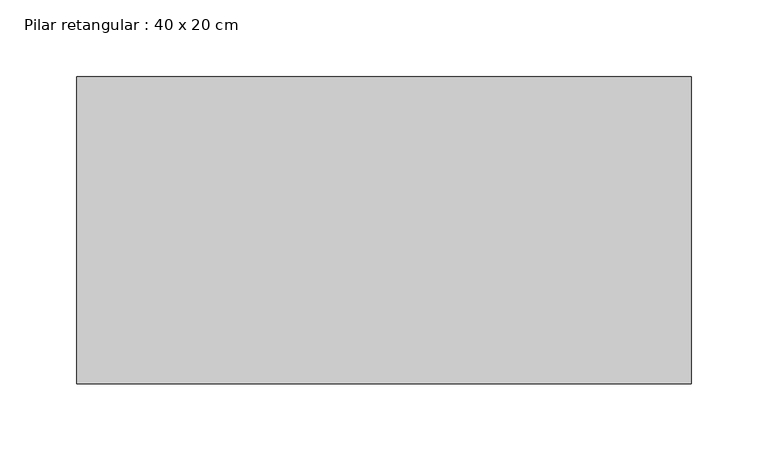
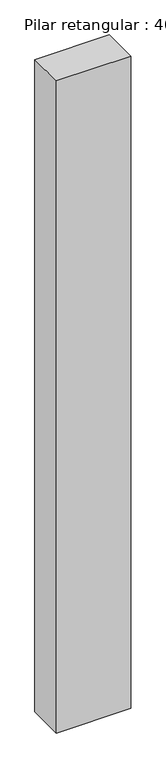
"""IFC4 building model written with IfcOpenShell, lengths in millimetres: column geometry, Pilar retangular : 40 x 20 cm."""

from ifc_helpers import new_model, si_unit, origin, origin_with_axes, place, context, project, spatial, polyline, outline, extrude, source, transform, mapped, element, save


def pilar_retangular_40_x_20_cm_dd6b6704(model_context):
    return source(origin(), model_context, "Body", "SweptSolid", [
        extrude(outline(polyline([(200.0, 100.0), (200.0, -100.0), (-200.0, -100.0), (-200.0, 100.0), (200.0, 100.0)])), origin_with_axes(), (0.0, 0.0, 1.0), 3706.9),
    ])


if __name__ == "__main__":
    model = new_model("IFC4")
    model_context = context("Model", 3, world=origin())
    ifc_project = project(units=[si_unit("LENGTHUNIT", "METRE", prefix="MILLI")], contexts=[model_context])
    site = spatial("IfcSite", under=ifc_project)
    building = spatial("IfcBuilding", under=site)
    placement = place(None, origin())
    pilar_retangular_40_x_20_cm_shape = pilar_retangular_40_x_20_cm_dd6b6704(model_context)
    element("IfcColumn", 1, ObjectType="Pilar retangular : 40 x 20 cm", at=placement, inside=building, context=model_context, shape_type="MappedRepresentation", body=[
        mapped(pilar_retangular_40_x_20_cm_shape, transform((0.0, 0.0, 0.0), x_axis=(1.0, 0.0, 0.0), y_axis=(0.0, 1.0, 0.0), z_axis=(0.0, 0.0, 1.0))),
    ])
    save(model, "model.ifc")
